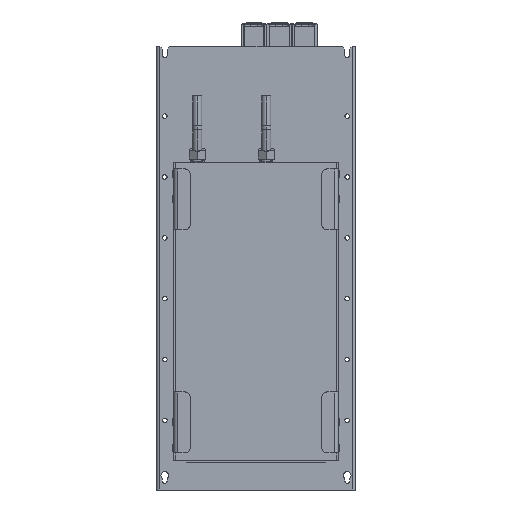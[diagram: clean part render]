
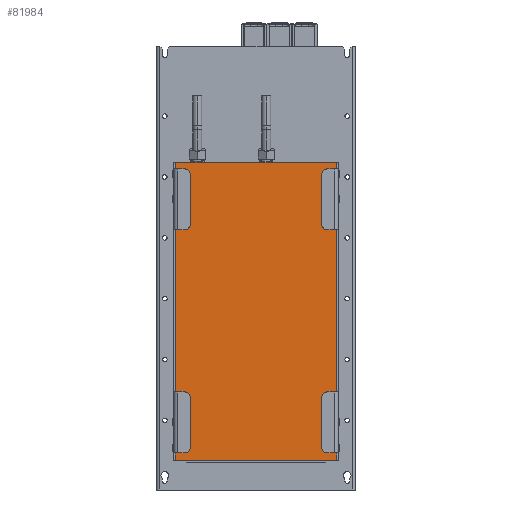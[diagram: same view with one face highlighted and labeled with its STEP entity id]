
A CAD part, front view. The second image highlights one B-rep face of the part: STEP entity #81984.
In plain terms, the highlighted planar face has unit normal (0, -1, 0).
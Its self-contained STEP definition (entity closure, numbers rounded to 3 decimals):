
#343 = LINE ( 'NONE', #22542, #93495 ) ;
#696 = VERTEX_POINT ( 'NONE', #84779 ) ;
#1845 = VERTEX_POINT ( 'NONE', #69897 ) ;
#2286 = ORIENTED_EDGE ( 'NONE', *, *, #37983, .F. ) ;
#2413 = CARTESIAN_POINT ( 'NONE',  ( -159., 0., 0. ) ) ;
#2422 = VERTEX_POINT ( 'NONE', #30627 ) ;
#4425 = VECTOR ( 'NONE', #46689, 1000. ) ;
#4872 = CARTESIAN_POINT ( 'NONE',  ( -110.556, 0., 0. ) ) ;
#5384 = ORIENTED_EDGE ( 'NONE', *, *, #46145, .F. ) ;
#5419 = VECTOR ( 'NONE', #93731, 1000. ) ;
#5535 = DIRECTION ( 'NONE',  ( 0., 0., 1. ) ) ;
#7062 = VERTEX_POINT ( 'NONE', #32226 ) ;
#7585 = CARTESIAN_POINT ( 'NONE',  ( 57.873, 0., 0. ) ) ;
#7749 = ORIENTED_EDGE ( 'NONE', *, *, #14120, .F. ) ;
#8159 = VERTEX_POINT ( 'NONE', #84294 ) ;
#9451 = ORIENTED_EDGE ( 'NONE', *, *, #94704, .F. ) ;
#9808 = EDGE_CURVE ( 'NONE', #39920, #93631, #59698, .T. ) ;
#13099 = ORIENTED_EDGE ( 'NONE', *, *, #13897, .T. ) ;
#13411 = VECTOR ( 'NONE', #81873, 1000. ) ;
#13897 = EDGE_CURVE ( 'NONE', #696, #2422, #46135, .T. ) ;
#14120 = EDGE_CURVE ( 'NONE', #35684, #62848, #86069, .T. ) ;
#15916 = VERTEX_POINT ( 'NONE', #49245 ) ;
#16812 = ORIENTED_EDGE ( 'NONE', *, *, #65914, .T. ) ;
#18353 = VERTEX_POINT ( 'NONE', #73598 ) ;
#18794 = EDGE_CURVE ( 'NONE', #2422, #39920, #68531, .T. ) ;
#22542 = CARTESIAN_POINT ( 'NONE',  ( -159., 0., -588. ) ) ;
#23193 = CARTESIAN_POINT ( 'NONE',  ( -159., 0., 0. ) ) ;
#24658 = ORIENTED_EDGE ( 'NONE', *, *, #86657, .T. ) ;
#24789 = ORIENTED_EDGE ( 'NONE', *, *, #78380, .F. ) ;
#27269 = LINE ( 'NONE', #47069, #74070 ) ;
#27273 = DIRECTION ( 'NONE',  ( 0., 0., 1. ) ) ;
#27761 = VECTOR ( 'NONE', #69738, 1000. ) ;
#28263 = CARTESIAN_POINT ( 'NONE',  ( -159., 0., -49. ) ) ;
#30627 = CARTESIAN_POINT ( 'NONE',  ( 14.556, 0., 0. ) ) ;
#31872 = EDGE_CURVE ( 'NONE', #8159, #79075, #94673, .T. ) ;
#32128 = ORIENTED_EDGE ( 'NONE', *, *, #9808, .T. ) ;
#32132 = LINE ( 'NONE', #48067, #60370 ) ;
#32226 = CARTESIAN_POINT ( 'NONE',  ( -159., 0., -572.5 ) ) ;
#33555 = VECTOR ( 'NONE', #80430, 1000. ) ;
#34514 = CARTESIAN_POINT ( 'NONE',  ( 159., 0., -588. ) ) ;
#35284 = CARTESIAN_POINT ( 'NONE',  ( 159., 0., -588. ) ) ;
#35684 = VERTEX_POINT ( 'NONE', #72430 ) ;
#37983 = EDGE_CURVE ( 'NONE', #7062, #35684, #79303, .T. ) ;
#39859 = DIRECTION ( 'NONE',  ( 0., 0., 1. ) ) ;
#39920 = VERTEX_POINT ( 'NONE', #4872 ) ;
#39984 = VECTOR ( 'NONE', #27273, 1000. ) ;
#40346 = DIRECTION ( 'NONE',  ( 0., 0., 1. ) ) ;
#40934 = DIRECTION ( 'NONE',  ( -1., 0., 0. ) ) ;
#41324 = EDGE_CURVE ( 'NONE', #18353, #59140, #32132, .T. ) ;
#41712 = VECTOR ( 'NONE', #40346, 1000. ) ;
#42399 = CARTESIAN_POINT ( 'NONE',  ( -121.444, 0., 0. ) ) ;
#43148 = LINE ( 'NONE', #55719, #88613 ) ;
#43205 = VECTOR ( 'NONE', #5535, 1000. ) ;
#45270 = LINE ( 'NONE', #68867, #13411 ) ;
#45961 = EDGE_LOOP ( 'NONE', ( #13099, #75131, #32128, #68925, #9451, #56355, #7749, #2286, #79281, #5384, #73496, #46808, #24658, #24789, #77673, #16812 ) ) ;
#46135 = LINE ( 'NONE', #75505, #27761 ) ;
#46145 = EDGE_CURVE ( 'NONE', #1845, #58587, #343, .T. ) ;
#46689 = DIRECTION ( 'NONE',  ( 0., 0., 1. ) ) ;
#46808 = ORIENTED_EDGE ( 'NONE', *, *, #31872, .T. ) ;
#47069 = CARTESIAN_POINT ( 'NONE',  ( -159., 0., -588. ) ) ;
#47600 = VECTOR ( 'NONE', #40934, 1000. ) ;
#48067 = CARTESIAN_POINT ( 'NONE',  ( 159., 0., -49. ) ) ;
#48111 = CARTESIAN_POINT ( 'NONE',  ( -159., 0., -12.5 ) ) ;
#48814 = DIRECTION ( 'NONE',  ( 0., 0., 1. ) ) ;
#49006 = CARTESIAN_POINT ( 'NONE',  ( 159., 0., -452.5 ) ) ;
#49245 = CARTESIAN_POINT ( 'NONE',  ( 159., 0., -132.5 ) ) ;
#49861 = EDGE_CURVE ( 'NONE', #93631, #73001, #69874, .T. ) ;
#51237 = LINE ( 'NONE', #23193, #87914 ) ;
#51660 = CARTESIAN_POINT ( 'NONE',  ( -159., 0., -588. ) ) ;
#52649 = DIRECTION ( 'NONE',  ( -1., 0., 0. ) ) ;
#55719 = CARTESIAN_POINT ( 'NONE',  ( 159., 0., -132.5 ) ) ;
#56355 = ORIENTED_EDGE ( 'NONE', *, *, #92226, .F. ) ;
#58178 = PLANE ( 'NONE',  #66323 ) ;
#58587 = VERTEX_POINT ( 'NONE', #51660 ) ;
#59140 = VERTEX_POINT ( 'NONE', #69807 ) ;
#59698 = LINE ( 'NONE', #7585, #33555 ) ;
#60370 = VECTOR ( 'NONE', #39859, 1000. ) ;
#60874 = CARTESIAN_POINT ( 'NONE',  ( -159., 0., 0. ) ) ;
#62046 = LINE ( 'NONE', #34514, #41712 ) ;
#62848 = VERTEX_POINT ( 'NONE', #80676 ) ;
#63602 = CARTESIAN_POINT ( 'NONE',  ( -159., 0., 0. ) ) ;
#64370 = CARTESIAN_POINT ( 'NONE',  ( 159., 0., -588. ) ) ;
#64949 = FACE_OUTER_BOUND ( 'NONE', #45961, .T. ) ;
#65884 = DIRECTION ( 'NONE',  ( 1., 0., 0. ) ) ;
#65914 = EDGE_CURVE ( 'NONE', #59140, #696, #51237, .T. ) ;
#66323 = AXIS2_PLACEMENT_3D ( 'NONE', #28263, #80323, #65884 ) ;
#66769 = VECTOR ( 'NONE', #48814, 1000. ) ;
#68367 = DIRECTION ( 'NONE',  ( -1., 0., 0. ) ) ;
#68531 = LINE ( 'NONE', #2413, #74539 ) ;
#68867 = CARTESIAN_POINT ( 'NONE',  ( -159., 0., -12.5 ) ) ;
#68925 = ORIENTED_EDGE ( 'NONE', *, *, #49861, .T. ) ;
#69738 = DIRECTION ( 'NONE',  ( -1., 0., 0. ) ) ;
#69807 = CARTESIAN_POINT ( 'NONE',  ( 159., 0., 0. ) ) ;
#69874 = LINE ( 'NONE', #63602, #47600 ) ;
#69897 = CARTESIAN_POINT ( 'NONE',  ( 159., 0., -588. ) ) ;
#70286 = CARTESIAN_POINT ( 'NONE',  ( -159., 0., -49. ) ) ;
#71929 = LINE ( 'NONE', #35284, #66769 ) ;
#72430 = CARTESIAN_POINT ( 'NONE',  ( -159., 0., -452.5 ) ) ;
#73001 = VERTEX_POINT ( 'NONE', #60874 ) ;
#73496 = ORIENTED_EDGE ( 'NONE', *, *, #83612, .T. ) ;
#73598 = CARTESIAN_POINT ( 'NONE',  ( 159., 0., -12.5 ) ) ;
#74070 = VECTOR ( 'NONE', #83670, 1000. ) ;
#74539 = VECTOR ( 'NONE', #75247, 1000. ) ;
#75131 = ORIENTED_EDGE ( 'NONE', *, *, #18794, .T. ) ;
#75247 = DIRECTION ( 'NONE',  ( -1., 0., 0. ) ) ;
#75505 = CARTESIAN_POINT ( 'NONE',  ( 57.873, 0., 0. ) ) ;
#77425 = CARTESIAN_POINT ( 'NONE',  ( -159., 0., -588. ) ) ;
#77673 = ORIENTED_EDGE ( 'NONE', *, *, #41324, .T. ) ;
#78380 = EDGE_CURVE ( 'NONE', #18353, #15916, #43148, .T. ) ;
#79075 = VERTEX_POINT ( 'NONE', #49006 ) ;
#79281 = ORIENTED_EDGE ( 'NONE', *, *, #82786, .F. ) ;
#79303 = LINE ( 'NONE', #87510, #39984 ) ;
#79742 = DIRECTION ( 'NONE',  ( 0., 0., -1. ) ) ;
#80323 = DIRECTION ( 'NONE',  ( 0., 1., 0. ) ) ;
#80430 = DIRECTION ( 'NONE',  ( -1., 0., 0. ) ) ;
#80676 = CARTESIAN_POINT ( 'NONE',  ( -159., 0., -132.5 ) ) ;
#81873 = DIRECTION ( 'NONE',  ( 0., 0., 1. ) ) ;
#81984 = ADVANCED_FACE ( 'NONE', ( #64949 ), #58178, .F. ) ;
#82786 = EDGE_CURVE ( 'NONE', #58587, #7062, #27269, .T. ) ;
#83612 = EDGE_CURVE ( 'NONE', #1845, #8159, #62046, .T. ) ;
#83670 = DIRECTION ( 'NONE',  ( 0., 0., 1. ) ) ;
#83752 = LINE ( 'NONE', #70286, #4425 ) ;
#84294 = CARTESIAN_POINT ( 'NONE',  ( 159., 0., -572.5 ) ) ;
#84779 = CARTESIAN_POINT ( 'NONE',  ( 25.444, 0., 0. ) ) ;
#86069 = LINE ( 'NONE', #77425, #43205 ) ;
#86657 = EDGE_CURVE ( 'NONE', #79075, #15916, #71929, .T. ) ;
#87510 = CARTESIAN_POINT ( 'NONE',  ( -159., 0., -452.5 ) ) ;
#87914 = VECTOR ( 'NONE', #52649, 1000. ) ;
#88613 = VECTOR ( 'NONE', #79742, 1000. ) ;
#91277 = VERTEX_POINT ( 'NONE', #48111 ) ;
#92226 = EDGE_CURVE ( 'NONE', #62848, #91277, #45270, .T. ) ;
#93495 = VECTOR ( 'NONE', #68367, 1000. ) ;
#93631 = VERTEX_POINT ( 'NONE', #42399 ) ;
#93731 = DIRECTION ( 'NONE',  ( 0., 0., 1. ) ) ;
#94673 = LINE ( 'NONE', #64370, #5419 ) ;
#94704 = EDGE_CURVE ( 'NONE', #91277, #73001, #83752, .T. ) ;
